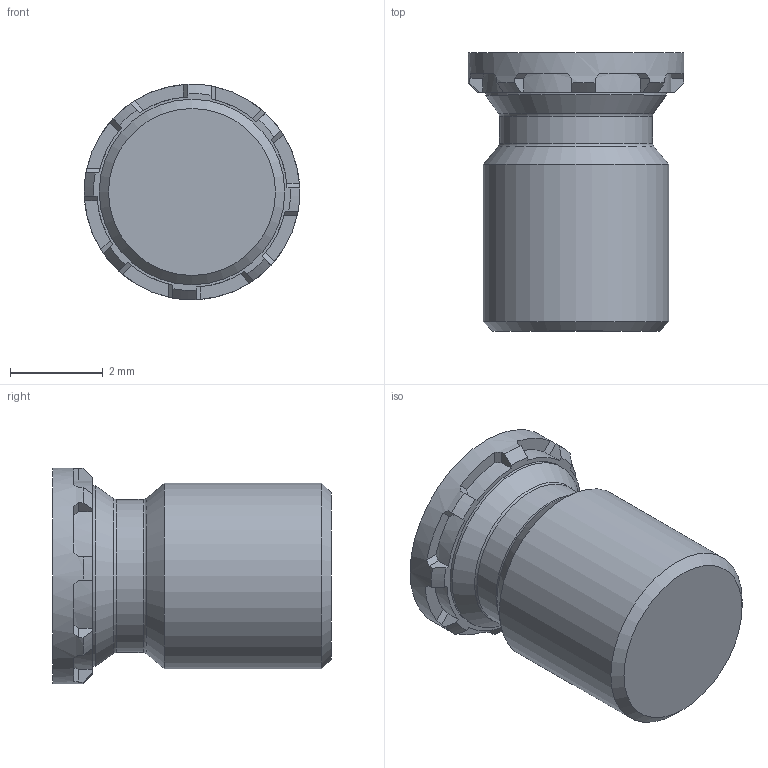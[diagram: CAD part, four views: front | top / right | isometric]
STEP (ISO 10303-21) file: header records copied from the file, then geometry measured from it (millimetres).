
FILE_DESCRIPTION(/* description */ (''),/* implementation_level */ '2;1');
FILE_NAME(/* name */ 'C:\Users\keval.kumar\Desktop\Fastit\Clinch Screw- Reduced FH Range\M4\Clinch Screw-Reduced FH Range_M4x6.stp',/* time_stamp */ '2024-03-12T13:53:59+05:00',/* author */ ('keval.kumar'),/* organization */ (''),/* preprocessor_version */ 'ST-DEVELOPER v18.1',/* originating_system */ 'Autodesk Inventor 2022',/* authorisation */ '');
FILE_SCHEMA (('AUTOMOTIVE_DESIGN { 1 0 10303 214 3 1 1 }'));
Length unit declared in the file: millimetre
Products named in the file (1): Clinch Screw-Reduced FH Range_M4x6
Bounding box: 4.65 x 6 x 4.65 mm (x, y, z)
Volume: 73.3 mm3; surface area: 110.3 mm2
Topology: 1 solids, 1 shells, 68 faces, 193 edges, 128 vertices
Faces by surface type: plane 43, cylinder 12, cone 11, torus 2
Full cylindrical faces by diameter (mm): 3.3 x1, 3.9 x1, 4 x1, 4.65 x1
Entity records: 2278 total; most frequent: CARTESIAN_POINT 422, DIRECTION 405, ORIENTED_EDGE 386, EDGE_CURVE 193, AXIS2_PLACEMENT_3D 159, VERTEX_POINT 128, LINE 87, VECTOR 87
